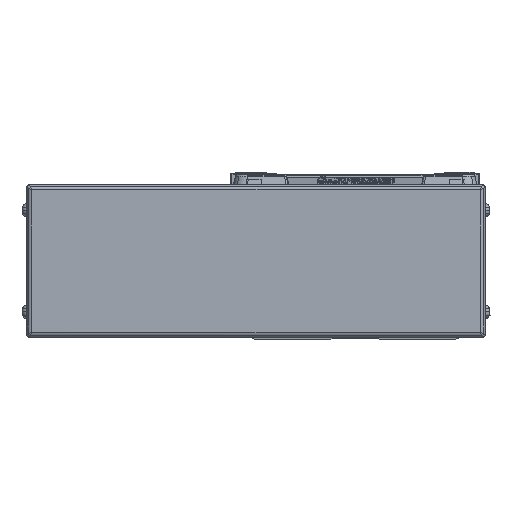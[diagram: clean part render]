
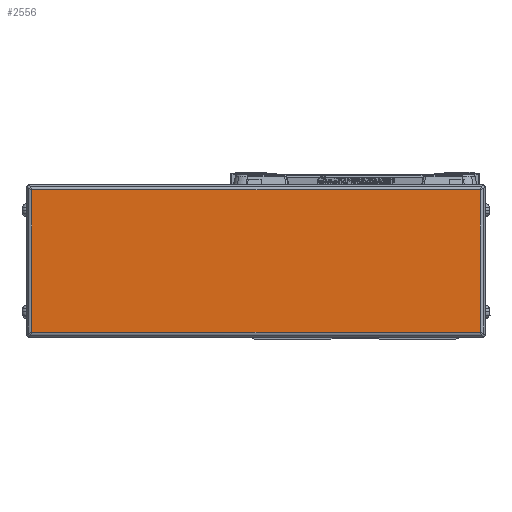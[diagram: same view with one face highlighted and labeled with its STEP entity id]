
A CAD part, left-side view. The second image highlights one B-rep face of the part: STEP entity #2556.
In plain terms, the highlighted planar face has unit normal (-1, 0, 0).
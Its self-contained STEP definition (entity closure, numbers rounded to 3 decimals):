
#2556=ADVANCED_FACE('',(#6654),#6655,.F.);
#6654=FACE_OUTER_BOUND('',#12777,.T.);
#6655=PLANE('',#12778);
#12777=EDGE_LOOP('',(#20260,#20261,#20262,#20263));
#12778=AXIS2_PLACEMENT_3D('',#20264,#20265,#20266);
#20260=ORIENTED_EDGE('',*,*,#35766,.T.);
#20261=ORIENTED_EDGE('',*,*,#35771,.T.);
#20262=ORIENTED_EDGE('',*,*,#36152,.T.);
#20263=ORIENTED_EDGE('',*,*,#36545,.T.);
#20264=CARTESIAN_POINT('',(-616.,39.,0.));
#20265=DIRECTION('',(1.0,0.,0.));
#20266=DIRECTION('',(0.,0.,1.0));
#35766=EDGE_CURVE('',#42517,#42515,#42518,.T.);
#35771=EDGE_CURVE('',#42515,#42524,#42526,.T.);
#36152=EDGE_CURVE('',#42524,#42570,#43201,.T.);
#36545=EDGE_CURVE('',#42570,#42517,#43876,.T.);
#42515=VERTEX_POINT('',#52388);
#42517=VERTEX_POINT('',#52390);
#42518=LINE('',#52391,#52392);
#42524=VERTEX_POINT('',#52399);
#42526=LINE('',#52401,#52402);
#42570=VERTEX_POINT('',#52455);
#43201=LINE('',#53284,#53285);
#43876=LINE('',#54220,#54221);
#52388=CARTESIAN_POINT('',(-616.0,127.2,28.));
#52390=CARTESIAN_POINT('',(-616.,-49.2,28.));
#52391=CARTESIAN_POINT('',(-616.,39.,28.));
#52392=VECTOR('',#65840,10.0);
#52399=CARTESIAN_POINT('',(-616.0,127.2,-28.));
#52401=CARTESIAN_POINT('',(-616.0,127.2,0.));
#52402=VECTOR('',#65848,10.0);
#52455=CARTESIAN_POINT('',(-616.,-49.2,-28.));
#53284=CARTESIAN_POINT('',(-616.0,39.,-28.));
#53285=VECTOR('',#66370,10.0);
#54220=CARTESIAN_POINT('',(-616.,-49.2,0.));
#54221=VECTOR('',#66914,10.0);
#65840=DIRECTION('',(0.,1.0,0.));
#65848=DIRECTION('',(0.,0.,-1.0));
#66370=DIRECTION('',(0.,-1.0,0.));
#66914=DIRECTION('',(0.,0.,1.0));
